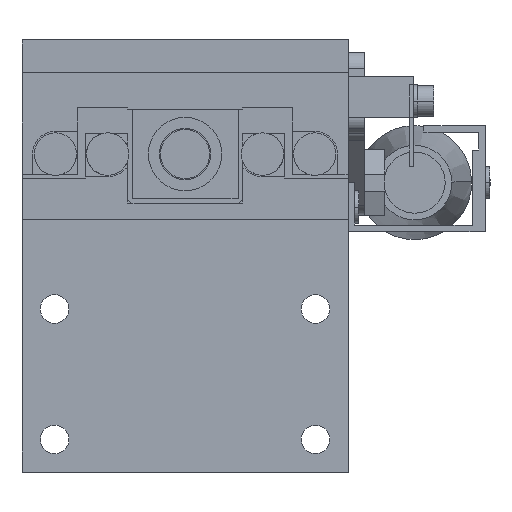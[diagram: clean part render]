
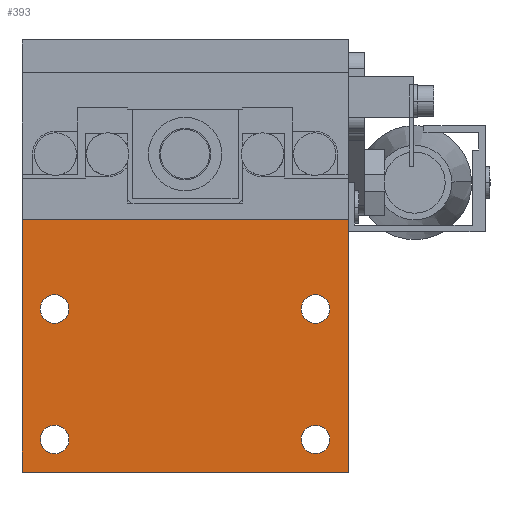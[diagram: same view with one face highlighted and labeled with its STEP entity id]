
A CAD part, front view. The second image highlights one B-rep face of the part: STEP entity #393.
In plain terms, the highlighted planar face has unit normal (0, -1, 0).
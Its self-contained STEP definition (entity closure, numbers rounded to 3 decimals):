
#393=ADVANCED_FACE('',(#1038,#1039,#1040,#1041,#1042),#1043,.F.);
#1038=FACE_BOUND('',#2334,.T.);
#1039=FACE_BOUND('',#2335,.T.);
#1040=FACE_BOUND('',#2336,.T.);
#1041=FACE_BOUND('',#2337,.T.);
#1042=FACE_OUTER_BOUND('',#2338,.T.);
#1043=PLANE('',#2339);
#2334=EDGE_LOOP('',(#3808,#3809));
#2335=EDGE_LOOP('',(#3810,#3811));
#2336=EDGE_LOOP('',(#3812,#3813));
#2337=EDGE_LOOP('',(#3814,#3815));
#2338=EDGE_LOOP('',(#3816,#3817,#3818,#3819));
#2339=AXIS2_PLACEMENT_3D('',#3820,#3821,#3822);
#3808=ORIENTED_EDGE('',*,*,#8457,.F.);
#3809=ORIENTED_EDGE('',*,*,#8375,.F.);
#3810=ORIENTED_EDGE('',*,*,#8458,.F.);
#3811=ORIENTED_EDGE('',*,*,#8371,.F.);
#3812=ORIENTED_EDGE('',*,*,#8456,.F.);
#3813=ORIENTED_EDGE('',*,*,#8379,.F.);
#3814=ORIENTED_EDGE('',*,*,#8450,.F.);
#3815=ORIENTED_EDGE('',*,*,#8383,.F.);
#3816=ORIENTED_EDGE('',*,*,#8459,.T.);
#3817=ORIENTED_EDGE('',*,*,#8442,.F.);
#3818=ORIENTED_EDGE('',*,*,#8427,.F.);
#3819=ORIENTED_EDGE('',*,*,#8444,.T.);
#3820=CARTESIAN_POINT('',(-20.0,0.0,-13.5));
#3821=DIRECTION('',(0.0,1.0,0.0));
#3822=DIRECTION('',(-1.0,0.0,0.0));
#8371=EDGE_CURVE('',#9881,#9877,#9883,.T.);
#8375=EDGE_CURVE('',#9889,#9885,#9891,.T.);
#8379=EDGE_CURVE('',#9897,#9893,#9899,.T.);
#8383=EDGE_CURVE('',#9905,#9901,#9907,.T.);
#8427=EDGE_CURVE('',#9983,#9985,#9986,.T.);
#8442=EDGE_CURVE('',#9985,#10004,#10008,.T.);
#8444=EDGE_CURVE('',#9983,#10009,#10011,.T.);
#8450=EDGE_CURVE('',#9901,#9905,#10018,.T.);
#8456=EDGE_CURVE('',#9893,#9897,#10026,.T.);
#8457=EDGE_CURVE('',#9885,#9889,#10027,.T.);
#8458=EDGE_CURVE('',#9877,#9881,#10028,.T.);
#8459=EDGE_CURVE('',#10009,#10004,#10029,.T.);
#9877=VERTEX_POINT('',#12342);
#9881=VERTEX_POINT('',#12347);
#9883=CIRCLE('',#12350,1.75);
#9885=VERTEX_POINT('',#12352);
#9889=VERTEX_POINT('',#12357);
#9891=CIRCLE('',#12360,1.75);
#9893=VERTEX_POINT('',#12362);
#9897=VERTEX_POINT('',#12367);
#9899=CIRCLE('',#12370,1.75);
#9901=VERTEX_POINT('',#12372);
#9905=VERTEX_POINT('',#12377);
#9907=CIRCLE('',#12380,1.75);
#9983=VERTEX_POINT('',#12481);
#9985=VERTEX_POINT('',#12484);
#9986=LINE('',#12485,#12486);
#10004=VERTEX_POINT('',#12512);
#10008=LINE('',#12518,#12519);
#10009=VERTEX_POINT('',#12520);
#10011=LINE('',#12523,#12524);
#10018=CIRCLE('',#12533,1.75);
#10026=CIRCLE('',#12544,1.75);
#10027=CIRCLE('',#12545,1.75);
#10028=CIRCLE('',#12546,1.75);
#10029=LINE('',#12547,#12548);
#12342=CARTESIAN_POINT('',(-16.0,0.0,-7.75));
#12347=CARTESIAN_POINT('',(-16.0,0.0,-11.25));
#12350=AXIS2_PLACEMENT_3D('',#15831,#15832,#15833);
#12352=CARTESIAN_POINT('',(16.0,0.0,8.25));
#12357=CARTESIAN_POINT('',(16.0,0.0,4.75));
#12360=AXIS2_PLACEMENT_3D('',#15839,#15840,#15841);
#12362=CARTESIAN_POINT('',(16.0,0.0,-7.75));
#12367=CARTESIAN_POINT('',(16.0,0.0,-11.25));
#12370=AXIS2_PLACEMENT_3D('',#15847,#15848,#15849);
#12372=CARTESIAN_POINT('',(-16.0,0.0,8.25));
#12377=CARTESIAN_POINT('',(-16.0,0.0,4.75));
#12380=AXIS2_PLACEMENT_3D('',#15855,#15856,#15857);
#12481=CARTESIAN_POINT('',(-20.0,0.0,-13.5));
#12484=CARTESIAN_POINT('',(-20.0,0.0,17.5));
#12485=CARTESIAN_POINT('',(-20.0,0.0,-13.5));
#12486=VECTOR('',#15935,1000.0);
#12512=CARTESIAN_POINT('',(20.0,0.0,17.5));
#12518=CARTESIAN_POINT('',(-20.0,0.0,17.5));
#12519=VECTOR('',#15958,1000.0);
#12520=CARTESIAN_POINT('',(20.0,0.0,-13.5));
#12523=CARTESIAN_POINT('',(-20.0,0.0,-13.5));
#12524=VECTOR('',#15960,1000.0);
#12533=AXIS2_PLACEMENT_3D('',#15972,#15973,#15974);
#12544=AXIS2_PLACEMENT_3D('',#15984,#15985,#15986);
#12545=AXIS2_PLACEMENT_3D('',#15987,#15988,#15989);
#12546=AXIS2_PLACEMENT_3D('',#15990,#15991,#15992);
#12547=CARTESIAN_POINT('',(20.0,0.0,-13.5));
#12548=VECTOR('',#15993,1000.0);
#15831=CARTESIAN_POINT('',(-16.0,0.0,-9.5));
#15832=DIRECTION('',(0.0,-1.0,0.0));
#15833=DIRECTION('',(0.0,0.0,1.0));
#15839=CARTESIAN_POINT('',(16.0,0.0,6.5));
#15840=DIRECTION('',(0.0,-1.0,0.0));
#15841=DIRECTION('',(0.0,0.0,1.0));
#15847=CARTESIAN_POINT('',(16.0,0.0,-9.5));
#15848=DIRECTION('',(0.0,-1.0,0.0));
#15849=DIRECTION('',(0.0,0.0,1.0));
#15855=CARTESIAN_POINT('',(-16.0,0.0,6.5));
#15856=DIRECTION('',(0.0,-1.0,0.0));
#15857=DIRECTION('',(0.0,0.0,1.0));
#15935=DIRECTION('',(0.0,0.0,1.0));
#15958=DIRECTION('',(1.0,0.0,0.0));
#15960=DIRECTION('',(1.0,0.0,0.0));
#15972=CARTESIAN_POINT('',(-16.0,0.0,6.5));
#15973=DIRECTION('',(0.0,-1.0,0.0));
#15974=DIRECTION('',(0.0,0.0,1.0));
#15984=CARTESIAN_POINT('',(16.0,0.0,-9.5));
#15985=DIRECTION('',(0.0,-1.0,0.0));
#15986=DIRECTION('',(0.0,0.0,1.0));
#15987=CARTESIAN_POINT('',(16.0,0.0,6.5));
#15988=DIRECTION('',(0.0,-1.0,0.0));
#15989=DIRECTION('',(0.0,0.0,1.0));
#15990=CARTESIAN_POINT('',(-16.0,0.0,-9.5));
#15991=DIRECTION('',(0.0,-1.0,0.0));
#15992=DIRECTION('',(0.0,0.0,1.0));
#15993=DIRECTION('',(0.0,0.0,1.0));
